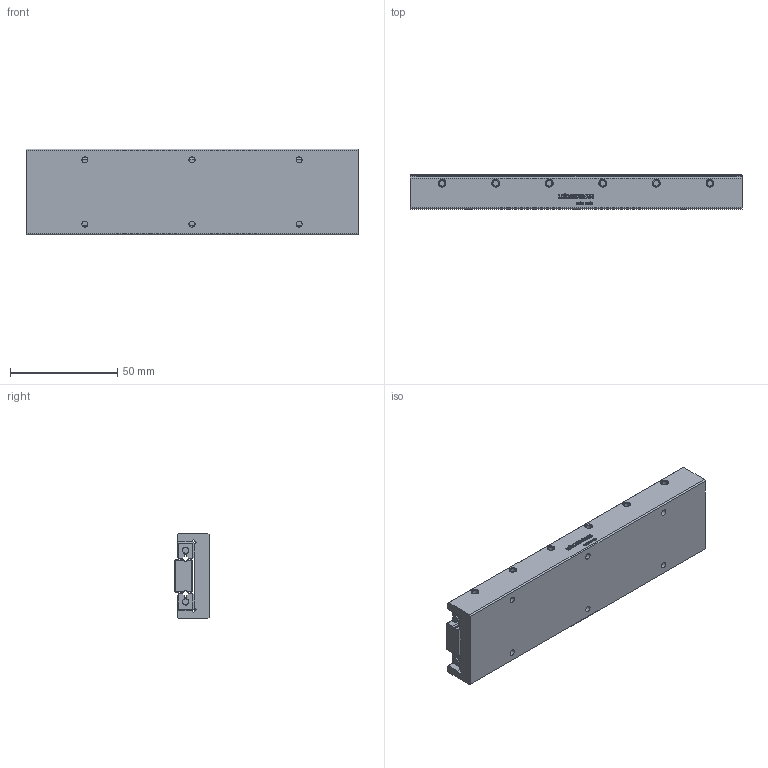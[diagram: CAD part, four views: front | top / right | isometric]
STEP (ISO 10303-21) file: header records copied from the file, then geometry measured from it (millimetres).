
FILE_DESCRIPTION(/* description */ ('STEP AP214'),/* implementation_level */ '2;1');
FILE_NAME(/* name */ 'ND 3-155.90(0)',/* time_stamp */ '2025-04-22T17:44:55+02:00',/* author */ ('License CC BY-ND 4.0'),/* organization */ ('CADENAS'),/* preprocessor_version */ 'ST-DEVELOPER v19.3',/* originating_system */ 'PARTsolutions',/* authorisation */ ' ');
FILE_SCHEMA (('AUTOMOTIVE_DESIGN {1 0 10303 214 3 1 1}'));
Length unit declared in the file: millimetre
Products named in the file (4): ND 3-155.90(0); ND 3-155.90+SQ+OF_(0)_1; ND 3-155.90+SQ+OF_(0)_2; ND 3-155.90+SQ+OF_(0)_3
Assembly tree (4 placements, depth 2):
  ND 3-155.90(0)
    ND 3-155.90+SQ+OF_(0)_1
    ND 3-155.90+SQ+OF_(0)_2
    ND 3-155.90+SQ+OF_(0)_3  x2
Bounding box: 155 x 16 x 40 mm (x, y, z)
Volume: 84011.3 mm3; surface area: 40127.9 mm2
Topology: 4 solids, 4 shells, 679 faces, 1854 edges, 1224 vertices
Faces by surface type: cylinder 340, plane 301, cone 34, torus 4
Full cylindrical faces by diameter (mm): 1.49 x4, 2.611 x6, 2.85 x6, 3 x12, 5.6 x12, 6.647 x6
Entity records: 19991 total; most frequent: DIRECTION 3616, CARTESIAN_POINT 3426, ORIENTED_EDGE 3324, EDGE_CURVE 1662, AXIS2_PLACEMENT_3D 1326, VERTEX_POINT 1136, LINE 964, VECTOR 964
